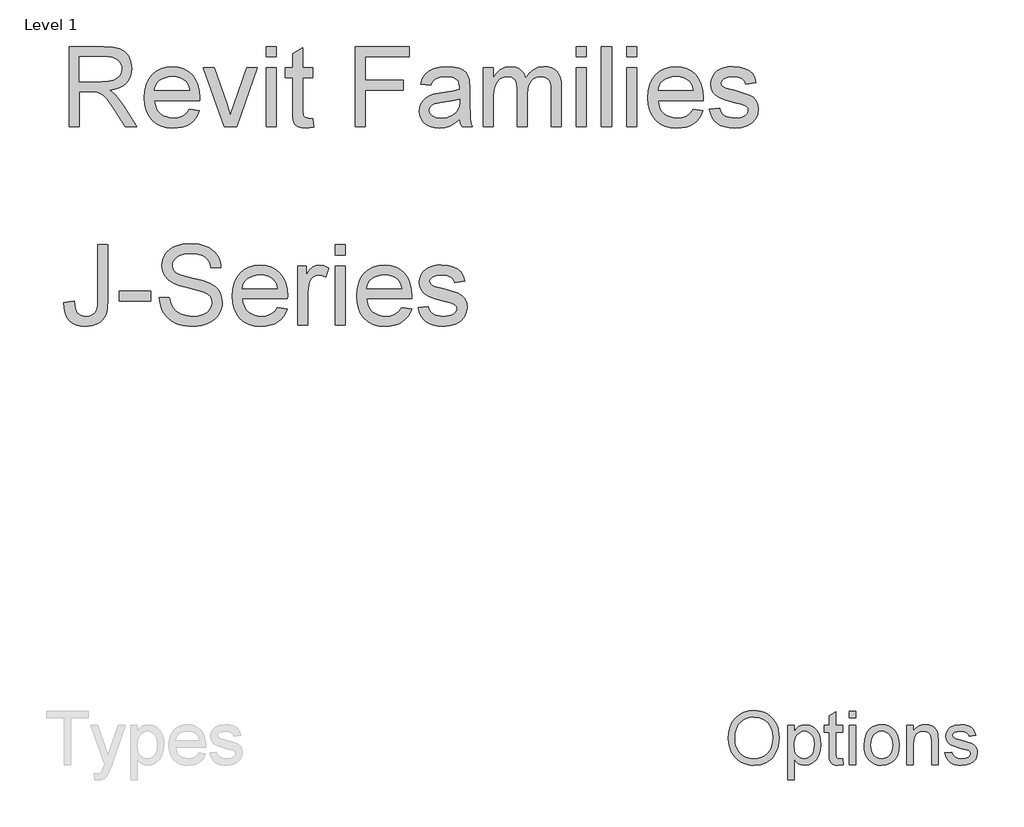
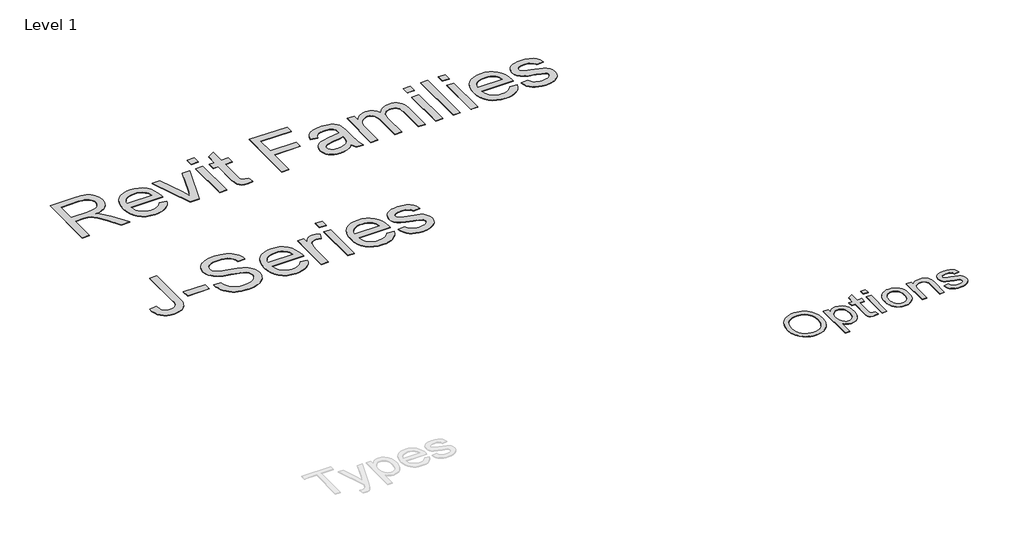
# One storey, part 7 of 7: 2 proxies.
"""IFC4 building model written with IfcOpenShell, lengths in millimetres."""

import ifcopenshell
import ifcopenshell.guid

model = None  # the IFC model being written
_history = None  # IfcOwnerHistory: only IFC2X3 demands one
_inside = {}  # id of a spatial element -> (the spatial element, [elements in it])
_under = {}  # id of a project, library or spatial element -> (it, [spatial elements below it])
_declared = {}  # id of a project -> (the project, [libraries it declares])
_typed = {}  # id of a type object -> (the type object, [elements of that type])
_made_of = {}  # id of a material, layer set ... -> (it, [elements and type objects made of it])


def new_model(schema):
    """Start an empty IFC model of exactly this schema.

    Asked for "IFC4X3", IfcOpenShell would pick the latest addendum, in which some entities
    have other attributes; the version numbers below select the first issue.
    IFC2X3 requires an IfcOwnerHistory on every rooted entity: one is made here for all.
    """
    global model, _history
    if schema == "IFC4X3":
        model = ifcopenshell.file(schema_version=(4, 3, 0, 0))
    else:
        model = ifcopenshell.file(schema=schema)
    _inside.clear()
    _under.clear()
    _declared.clear()
    _typed.clear()
    _made_of.clear()
    _history = None
    if model.schema == "IFC2X3":
        org = make("IfcOrganization", Name="unknown")
        user = make(
            "IfcPersonAndOrganization",
            ThePerson=make("IfcPerson", FamilyName="unknown"),
            TheOrganization=org,
        )
        app = make(
            "IfcApplication",
            ApplicationDeveloper=org,
            Version="unknown",
            ApplicationFullName="unknown",
            ApplicationIdentifier="unknown",
        )
        _history = make(
            "IfcOwnerHistory",
            OwningUser=user,
            OwningApplication=app,
            ChangeAction="ADDED",
            CreationDate=0,
        )
    return model


def make(cls, **values):
    """One entity of the class cls with the attributes given. An attribute that is None is left unset."""
    return model.create_entity(
        cls, **{name: value for name, value in values.items() if value is not None}
    )


def rooted(cls, **values):
    """An entity with a GlobalId (a new one), such as an element, a storey or a relation."""
    return make(cls, GlobalId=ifcopenshell.guid.new(), OwnerHistory=_history, **values)


def si_unit(unit_type, name, prefix=None):
    """IfcSIUnit, for example si_unit("LENGTHUNIT", "METRE", prefix="MILLI")."""
    return make("IfcSIUnit", UnitType=unit_type, Prefix=prefix, Name=name)


def assignment(units):
    """IfcUnitAssignment: the units of a project."""
    return None if units is None else make("IfcUnitAssignment", Units=units)


def point(xyz):
    """IfcCartesianPoint."""
    return None if xyz is None else make("IfcCartesianPoint", Coordinates=xyz)


def direction(xyz):
    """IfcDirection."""
    return None if xyz is None else make("IfcDirection", DirectionRatios=xyz)


def frame(location, z_axis=None, x_axis=None):
    """IfcAxis2Placement3D, a coordinate frame: its origin and axes. An axis left out is left unset."""
    return make(
        "IfcAxis2Placement3D",
        Location=point(location),
        Axis=direction(z_axis),
        RefDirection=direction(x_axis),
    )


def origin():
    """The frame at (0, 0, 0) with its axes left unset."""
    return frame((0.0, 0.0, 0.0))


def origin_with_axes():
    """The frame at (0, 0, 0) with the z axis (0, 0, 1) and the x axis (1, 0, 0) written out."""
    return frame((0.0, 0.0, 0.0), z_axis=(0.0, 0.0, 1.0), x_axis=(1.0, 0.0, 0.0))


def place(relative_to, where):
    """IfcLocalPlacement: puts the frame where relative to a parent placement (None: the world)."""
    return make(
        "IfcLocalPlacement", PlacementRelTo=relative_to, RelativePlacement=where
    )


def context(
    kind, dimensions, precision=None, world=None, true_north=None, identifier=None
):
    """IfcGeometricRepresentationContext, for example the 3D "Model" context."""
    return make(
        "IfcGeometricRepresentationContext",
        ContextIdentifier=identifier,
        ContextType=kind,
        CoordinateSpaceDimension=dimensions,
        Precision=precision,
        WorldCoordinateSystem=world,
        TrueNorth=true_north,
    )


def project(units=None, contexts=None):
    """IfcProject with its units and contexts."""
    return rooted(
        "IfcProject",
        Name="project",
        RepresentationContexts=contexts,
        UnitsInContext=assignment(units),
    )


def spatial(cls, under=None, at=None, **own):
    """A site, building, storey or space (cls), placed at a placement, below another one or the project."""
    s = rooted(cls, ObjectPlacement=at, **own)
    if under is not None:
        _under.setdefault(under.id(), (under, []))[1].append(s)
    return s


def polyline(points):
    """IfcPolyline through the points."""
    return make("IfcPolyline", Points=[point(p) for p in points])


def outline(outer, holes=None, kind="AREA"):
    """IfcArbitraryClosedProfileDef: a profile drawn as a closed curve; with holes, ...WithVoids."""
    if holes is None:
        return make("IfcArbitraryClosedProfileDef", ProfileType=kind, OuterCurve=outer)
    return make(
        "IfcArbitraryProfileDefWithVoids",
        ProfileType=kind,
        OuterCurve=outer,
        InnerCurves=holes,
    )


def extrude(swept, where, along, depth):
    """IfcExtrudedAreaSolid: the profile swept, set in the frame where, extruded along a direction by depth."""
    return make(
        "IfcExtrudedAreaSolid",
        SweptArea=swept,
        Position=where,
        ExtrudedDirection=direction(along),
        Depth=depth,
    )


def shape(context_of_items, identifier, shape_type, items):
    """IfcShapeRepresentation: the items that make up one representation, for example the "Body"."""
    return make(
        "IfcShapeRepresentation",
        ContextOfItems=context_of_items,
        RepresentationIdentifier=identifier,
        RepresentationType=shape_type,
        Items=items,
    )


def made_of(thing, what):
    """Note that an element or type object is made of a material, layer set ...; save() writes the relation."""
    if what is not None:
        _made_of.setdefault(what.id(), (what, []))[1].append(thing)
    return thing


def element(
    cls,
    number,
    at=None,
    inside=None,
    cuts=None,
    type_object=None,
    material=None,
    context=None,
    identifier="Body",
    shape_type=None,
    held_by="IfcProductDefinitionShape",
    body=None,
    shapes=None,
    **own,
):
    """One element of the class cls, such as IfcWall. Its Tag is "e" and its number.

    at: its placement. inside: the storey or other place that contains it. cuts: it is an
    opening in that element (IfcRelVoidsElement). A single representation is given by context,
    identifier, shape_type and body (its items); several are given by shapes. held_by: the class
    of the entity that holds the representations. save() writes the other relations.
    """
    e = rooted(cls, Tag="e%d" % number, ObjectPlacement=at, **own)
    if body is not None:
        shapes = [shape(context, identifier, shape_type, body)]
    if shapes is not None:
        e.Representation = make(held_by, Representations=shapes)
    if inside is not None:
        _inside.setdefault(inside.id(), (inside, []))[1].append(e)
    if cuts is not None:
        rooted(
            "IfcRelVoidsElement", RelatingBuildingElement=cuts, RelatedOpeningElement=e
        )
    if type_object is not None:
        _typed.setdefault(type_object.id(), (type_object, []))[1].append(e)
    return made_of(e, material)


def aggregate(whole, parts):
    """IfcRelAggregates: a whole, such as a stair, and the parts it consists of."""
    return rooted("IfcRelAggregates", RelatingObject=whole, RelatedObjects=parts)


def save(model, path):
    """Write the relations noted so far, then the file.

    IfcRelAggregates (storeys below a building ...), IfcRelContainedInSpatialStructure (elements
    in a storey), IfcRelDefinesByType, IfcRelAssociatesMaterial and IfcRelDeclares: one each for
    every whole, place, type object, material and project.
    """
    for whole, parts in _under.values():
        aggregate(whole, parts)
    for where, things in _inside.values():
        rooted(
            "IfcRelContainedInSpatialStructure",
            RelatedElements=things,
            RelatingStructure=where,
        )
    for kind, things in _typed.values():
        rooted("IfcRelDefinesByType", RelatedObjects=things, RelatingType=kind)
    for what, things in _made_of.values():
        rooted("IfcRelAssociatesMaterial", RelatedObjects=things, RelatingMaterial=what)
    for by, libraries in _declared.values():
        rooted("IfcRelDeclares", RelatingContext=by, RelatedDefinitions=libraries)
    model.write(path)


model = new_model("IFC4")

# Units and contexts
model_context = context("Model", 3, world=origin())
ifc_project = project(units=[si_unit("LENGTHUNIT", "METRE", prefix="MILLI")], contexts=[model_context])

# Site, building, storey
site = spatial("IfcSite", under=ifc_project)
building = spatial("IfcBuilding", under=site)
storey = spatial("IfcBuildingStorey", under=building, Name="Level 1", Elevation=0.0)

# Proxies
placement = place(None, origin())
element("IfcBuildingElementProxy", 1, Name="400mm Arial", ObjectType="400mm Arial", at=placement, inside=storey, context=model_context, shape_type="SweptSolid", body=[
    extrude(outline(polyline([(-6462.261333, 17542.0194987), (-6458.9974836, 17587.9704339), (-6449.2059353, 17628.6489968), (-6432.8866881, 17664.0551876), (-6410.0397421, 17694.1890063), (-6382.0340011, 17718.2494348), (-6350.238369, 17735.4354552), (-6314.6528458, 17745.7470674), (-6275.2774315, 17749.1842715), (-6248.9215484, 17747.57028), (-6223.892725, 17742.7283055), (-6200.1909613, 17734.6583482), (-6177.8162572, 17723.3604078), (-6157.3962762, 17709.1752161), (-6139.5586815, 17692.4435044), (-6124.3034732, 17673.1652729), (-6111.6306512, 17651.3405215), (-6101.671726, 17627.4654031), (-6094.558208, 17602.0360707), (-6088.8673936, 17546.5147639), (-6094.8570953, 17490.2522165), (-6102.3442224, 17464.4701971), (-6112.8262004, 17440.2543472), (-6126.0549528, 17418.2442857), (-6141.7824031, 17399.0796313), (-6160.0085513, 17382.7603841), (-6180.7333974, 17369.2865442), (-6226.4153339, 17351.2098396), (-6275.5643633, 17345.1842715), (-6302.3805328, 17346.8490738), (-6327.7381322, 17351.8434807), (-6351.6371616, 17360.1674923), (-6374.0776209, 17371.8211086), (-6394.473691, 17386.3530096), (-6412.2395527, 17403.3118756), (-6427.3752061, 17422.6977066), (-6439.8806512, 17444.5105025), (-6456.6661625, 17491.91403), (-6462.261333, 17542.0194987)]), holes=[polyline([(-6413.291636, 17541.541279), (-6410.843749, 17509.0761393), (-6403.5000877, 17480.2574249), (-6391.2606524, 17455.0851356), (-6374.1254429, 17433.5592715), (-6353.2959862, 17416.3194514), (-6329.9738093, 17404.0052942), (-6304.1589123, 17396.6167999), (-6275.8512951, 17394.1539684), (-6247.0594805, 17396.6407108), (-6220.9397184, 17404.1009381), (-6197.4920089, 17416.5346502), (-6176.7163519, 17433.9418472), (-6159.7066751, 17455.92202), (-6147.5569059, 17482.0746597), (-6140.2670444, 17512.3997662), (-6137.8370906, 17546.8973396), (-6141.9976019, 17590.2479552), (-6154.479136, 17627.7164684), (-6174.9588946, 17658.3583955), (-6203.1140792, 17681.2292525), (-6237.0796332, 17695.468244), (-6274.9904997, 17700.2145745), (-6302.3147776, 17697.9280866), (-6327.6663993, 17691.0686228), (-6351.0453647, 17679.6361831), (-6372.4516739, 17663.6307677), (-6390.3191573, 17642.2812471), (-6403.0816455, 17614.8164921), (-6410.7391384, 17581.2365027), (-6413.291636, 17541.541279)])]), origin_with_axes(), (0.0, 0.0, 1.0), 5.0),
    extrude(outline(polyline([(-6027.6552724, 17241.1236654), (-6027.6552724, 17639.0024533), (-5978.6855754, 17639.0024533), (-5978.6855754, 17590.9891957), (-5962.7130375, 17614.6730262), (-5944.8276209, 17631.590048), (-5923.9772421, 17641.740261), (-5899.1098179, 17645.1236654), (-5865.9931038, 17640.3892904), (-5837.0369012, 17626.1861654), (-5813.4606701, 17603.3750858), (-5796.4838709, 17572.8168472), (-5786.2260584, 17536.7351711), (-5782.8067875, 17497.353779), (-5786.6684116, 17455.4736891), (-5798.2532838, 17418.0171313), (-5817.1907838, 17386.885029), (-5843.1102913, 17363.9783055), (-5873.2979097, 17349.88278), (-5905.0397421, 17345.1842715), (-5927.5519343, 17348.328566), (-5947.6491171, 17357.7614495), (-5964.8530707, 17372.000441), (-5978.6855754, 17389.5630593), (-5978.6855754, 17241.1236654), (-6027.6552724, 17241.1236654)]), holes=[polyline([(-5978.6855754, 17492.8585139), (-5973.3892923, 17448.9579457), (-5966.7689384, 17431.9572355), (-5957.5004429, 17418.2562411), (-5934.0557222, 17400.1795366), (-5920.6386708, 17395.6603605), (-5906.0918254, 17394.1539684), (-5891.3357589, 17395.7141602), (-5877.6736199, 17400.3947355), (-5853.6311247, 17419.1170366), (-5844.0697196, 17433.3141839), (-5837.2401446, 17450.9425574), (-5831.7764845, 17496.4929836), (-5837.1086341, 17540.1544419), (-5843.7738212, 17557.2866625), (-5853.105083, 17571.2865442), (-5876.5139372, 17589.9371124), (-5889.778556, 17594.5997544), (-5904.0833027, 17596.1539684), (-5918.3432163, 17594.5011216), (-5931.7602677, 17589.5425811), (-5956.0657838, 17569.7084192), (-5965.9619426, 17554.9882191), (-5973.0306275, 17537.2731682), (-5977.2718384, 17516.5632665), (-5978.6855754, 17492.8585139)])]), origin_with_axes(), (0.0, 0.0, 1.0), 5.0),
    extrude(outline(polyline([(-5623.6552724, 17392.1454457), (-5617.5340603, 17349.8708245), (-5654.1656891, 17345.1842715), (-5677.6701872, 17347.2167052), (-5695.1969391, 17353.3140063), (-5707.5828292, 17362.7110233), (-5715.6647421, 17374.6426048), (-5720.1121853, 17395.1343188), (-5721.5946663, 17430.2117336), (-5721.5946663, 17590.0327563), (-5758.3219391, 17590.0327563), (-5758.3219391, 17639.0024533), (-5721.5946663, 17639.0024533), (-5721.5946663, 17708.918173), (-5672.6249694, 17737.7069987), (-5672.6249694, 17639.0024533), (-5623.6552724, 17639.0024533), (-5623.6552724, 17590.0327563), (-5672.6249694, 17590.0327563), (-5672.6249694, 17431.6463927), (-5670.042583, 17406.3963927), (-5661.6737383, 17397.4536843), (-5644.9838709, 17394.1539684), (-5623.6552724, 17392.1454457)])), origin_with_axes(), (0.0, 0.0, 1.0), 5.0),
    extrude(outline(polyline([(-5574.6855754, 17351.3054836), (-5574.6855754, 17639.0024533), (-5525.7158785, 17639.0024533), (-5525.7158785, 17351.3054836), (-5574.6855754, 17351.3054836)])), origin_with_axes(), (0.0, 0.0, 1.0), 5.0),
    extrude(outline(polyline([(-5574.6855754, 17694.0933624), (-5574.6855754, 17743.0630593), (-5525.7158785, 17743.0630593), (-5525.7158785, 17694.0933624), (-5574.6855754, 17694.0933624)])), origin_with_axes(), (0.0, 0.0, 1.0), 5.0),
    extrude(outline(polyline([(-5464.5037572, 17495.1539684), (-5461.8556157, 17532.4132606), (-5453.911191, 17564.5197355), (-5440.6704831, 17591.4733931), (-5422.1334921, 17613.2742336), (-5403.4709684, 17627.20836), (-5382.871655, 17637.1613074), (-5360.3355518, 17643.1330759), (-5335.8626588, 17645.1236654), (-5308.8462348, 17642.6996893), (-5284.4181749, 17635.427761), (-5262.5784791, 17623.3078806), (-5243.3271474, 17606.340048), (-5227.6146415, 17585.0981268), (-5216.391423, 17560.1559807), (-5209.6574919, 17531.5136098), (-5207.4128482, 17499.1710139), (-5211.3820716, 17449.6991862), (-5223.2897421, 17412.0393851), (-5242.7891502, 17383.8363785), (-5269.5335868, 17362.7349343), (-5301.2993302, 17349.5719372), (-5335.8626588, 17345.1842715), (-5363.273614, 17347.5992809), (-5387.9288283, 17354.8443093), (-5409.8283015, 17366.9193567), (-5428.9720338, 17383.824423), (-5444.5171628, 17405.2725764), (-5455.6208264, 17430.9768851), (-5462.2830245, 17460.9373491), (-5464.5037572, 17495.1539684)]), holes=[polyline([(-5415.5340603, 17495.2496124), (-5414.1173344, 17471.4970378), (-5409.8671569, 17450.9306019), (-5402.7835276, 17433.5503048), (-5392.8664466, 17419.3561465), (-5380.8033548, 17408.3301936), (-5367.2816929, 17400.4545129), (-5352.3014608, 17395.7291045), (-5335.8626588, 17394.1539684), (-5319.5075451, 17395.7380712), (-5304.5870906, 17400.4903794), (-5291.1012951, 17408.4108931), (-5279.0501588, 17419.4996124), (-5269.1330778, 17433.8342478), (-5262.0494485, 17451.4925101), (-5257.799271, 17472.4743993), (-5256.3825451, 17496.7799154), (-5257.8082376, 17519.7792939), (-5262.085315, 17539.8077326), (-5269.2137774, 17556.8652314), (-5279.1936247, 17570.9517904), (-5291.2895941, 17581.9777433), (-5304.766423, 17589.8534239), (-5319.6241112, 17594.5788323), (-5335.8626588, 17596.1539684), (-5352.3014608, 17594.58481), (-5367.2816929, 17589.8773349), (-5380.8033548, 17582.031543), (-5392.8664466, 17571.0474343), (-5402.7835276, 17556.8951202), (-5409.8671569, 17539.5447118), (-5414.1173344, 17518.9962092), (-5415.5340603, 17495.2496124)])]), origin_with_axes(), (0.0, 0.0, 1.0), 5.0),
    extrude(outline(polyline([(-5152.3219391, 17351.3054836), (-5152.3219391, 17639.0024533), (-5103.3522421, 17639.0024533), (-5103.3522421, 17598.8319987), (-5086.3395764, 17619.0846029), (-5065.9076398, 17633.5507487), (-5042.0564324, 17642.2304362), (-5014.7859542, 17645.1236654), (-4990.647815, 17642.7923444), (-4968.5421095, 17635.7983813), (-4950.1067402, 17625.0145271), (-4936.9796095, 17611.3135328), (-4928.0727677, 17594.7312648), (-4922.2982648, 17575.3035896), (-4919.7158785, 17527.9598396), (-4919.7158785, 17351.3054836), (-4968.6855754, 17351.3054836), (-4968.6855754, 17521.3604078), (-4970.0963235, 17546.6821408), (-4974.3285679, 17564.6871124), (-4982.1355044, 17577.5870887), (-4994.2703292, 17587.5938358), (-5009.8244249, 17594.0139353), (-5027.8891739, 17596.1539684), (-5056.5704002, 17591.3478605), (-5081.0193822, 17576.9295366), (-5090.7900084, 17565.1593543), (-5097.7690271, 17549.0732393), (-5101.9564384, 17528.6711914), (-5103.3522421, 17503.9532108), (-5103.3522421, 17351.3054836), (-5152.3219391, 17351.3054836)])), origin_with_axes(), (0.0, 0.0, 1.0), 5.0),
    extrude(outline(polyline([(-4870.7461815, 17437.0024533), (-4821.7764845, 17443.1236654), (-4814.0532364, 17422.1776427), (-4799.1088709, 17406.7789684), (-4776.847744, 17397.3102184), (-4747.1742118, 17394.1539684), (-4717.8593444, 17397.0471976), (-4697.2480754, 17405.7268851), (-4685.0534732, 17418.3040631), (-4680.9886057, 17432.8897639), (-4685.0773841, 17445.371298), (-4697.3437194, 17454.8878699), (-4747.7480754, 17468.8518851), (-4821.4895527, 17492.8106919), (-4840.1520764, 17504.8498728), (-4853.6737383, 17520.7865442), (-4861.8871616, 17539.6044893), (-4864.6249694, 17560.2874911), (-4862.4251588, 17579.2608576), (-4855.8257269, 17596.775654), (-4845.4244485, 17612.1384618), (-4831.8190982, 17624.6558624), (-4800.6869959, 17639.1459192), (-4758.5558406, 17645.1236654), (-4726.6824978, 17642.7206114), (-4698.9696663, 17635.5114495), (-4676.6846285, 17624.2015536), (-4661.0946663, 17609.496298), (-4650.7651209, 17590.3077326), (-4644.261333, 17565.5479078), (-4693.23103, 17559.4266957), (-4699.4120196, 17574.8373254), (-4711.6424883, 17586.4461086), (-4730.0419911, 17593.7270035), (-4754.730083, 17596.1539684), (-4782.8494012, 17593.8346029), (-4801.5956133, 17586.8765063), (-4812.1403576, 17576.8338927), (-4815.6552724, 17565.260976), (-4809.8209921, 17551.010029), (-4791.5529997, 17540.2022639), (-4749.3740224, 17529.7770745), (-4677.4976019, 17506.7268851), (-4658.51228, 17495.7039211), (-4644.1178671, 17480.6160896), (-4635.0436483, 17461.4155688), (-4632.0189088, 17438.0545366), (-4635.56969, 17413.9044419), (-4646.2220338, 17391.1890063), (-4663.5694533, 17371.6895982), (-4687.2054618, 17357.1875858), (-4715.7551777, 17348.1851), (-4747.8437194, 17345.1842715), (-4774.1996024, 17346.630886), (-4797.2199031, 17350.9707298), (-4816.9046214, 17358.2038027), (-4833.2537572, 17368.3301048), (-4846.6080423, 17381.3018141), (-4857.308208, 17397.0711086), (-4865.3542544, 17415.6379883), (-4870.7461815, 17437.0024533)])), origin_with_axes(), (0.0, 0.0, 1.0), 5.0),
])
element("IfcBuildingElementProxy", 2, Name="600mm Arial", ObjectType="600mm Arial", at=placement, inside=storey, context=model_context, shape_type="SweptSolid", body=[
    extrude(outline(polyline([(-11309.2935955, 22041.6162982), (-11309.2935955, 22632.385529), (-11054.7262878, 22632.385529), (-10986.3068167, 22628.401154), (-10936.5291724, 22616.448029), (-10917.3194369, 22606.9468271), (-10900.1469609, 22594.3807213), (-10885.0117446, 22578.7497117), (-10871.9137878, 22560.0537982), (-10861.3443768, 22539.2980891), (-10853.7947974, 22517.4876924), (-10847.755134, 22470.7028367), (-10850.2566364, 22440.3602886), (-10857.7611436, 22412.5057213), (-10870.2686556, 22387.1391347), (-10887.7791724, 22364.260529), (-10910.5180547, 22344.6000722), (-10938.7106628, 22328.8879328), (-10972.356997, 22317.1241107), (-11011.4570571, 22309.3086059), (-10987.1181148, 22293.4071636), (-10969.4859032, 22277.7220674), (-10909.630134, 22201.7124521), (-10811.1205186, 22041.6162982), (-10896.9378263, 22041.6162982), (-10973.8128263, 22164.0682213), (-11029.3416724, 22245.1259136), (-11049.9847013, 22268.7617309), (-11068.3560955, 22283.4191828), (-11103.4762878, 22297.4816828), (-11146.3128263, 22300.0778367), (-11235.4474417, 22300.0778367), (-11235.4474417, 22041.6162982), (-11309.2935955, 22041.6162982)]), holes=[polyline([(-11235.4474417, 22373.9239905), (-11070.1589801, 22373.9239905), (-11022.6890282, 22376.5381732), (-10985.8560955, 22384.3807213), (-10958.1277301, 22397.9744713), (-10937.9714801, 22417.8422597), (-10925.6938359, 22441.8747117), (-10921.6012878, 22467.9624521), (-10923.5529104, 22486.8476684), (-10929.4077782, 22503.9840867), (-10939.1658912, 22519.3717069), (-10952.8272494, 22533.010529), (-10970.7073575, 22544.1793992), (-10993.1217205, 22552.1571636), (-11020.0703383, 22556.9438222), (-11051.5532109, 22558.5393751), (-11235.4474417, 22558.5393751), (-11235.4474417, 22373.9239905)])]), origin_with_axes(), (0.0, 0.0, 1.0), 5.0),
    extrude(outline(polyline([(-10424.005134, 22170.8470674), (-10351.6012878, 22161.6162982), (-10362.7025498, 22132.6168992), (-10377.6890282, 22107.0610097), (-10396.5607229, 22084.9486299), (-10419.317634, 22066.2797597), (-10445.7253864, 22051.4510338), (-10475.5496051, 22040.8590867), (-10508.7902902, 22034.5039184), (-10545.4474417, 22032.385529), (-10591.2677542, 22036.0408775), (-10632.0940763, 22047.0069232), (-10667.926408, 22065.283666), (-10698.7647494, 22090.8711059), (-10723.5634273, 22123.0571035), (-10741.2767686, 22161.1295194), (-10751.9047734, 22205.0883535), (-10755.4474417, 22254.9336059), (-10751.8687157, 22306.4690626), (-10741.1325378, 22351.8927405), (-10723.238908, 22391.2046396), (-10698.1878263, 22424.4047597), (-10667.4306148, 22450.7809617), (-10632.4185955, 22469.6211059), (-10593.1517686, 22480.9251924), (-10549.630134, 22484.6932213), (-10507.5102422, 22480.9342069), (-10469.4197974, 22469.6571636), (-10435.3587998, 22450.8620915), (-10405.3272494, 22424.5489905), (-10380.8125258, 22391.4209857), (-10363.302009, 22352.1812021), (-10352.7956989, 22306.8296396), (-10349.2935955, 22255.3662982), (-10349.7262878, 22235.4624521), (-10681.6012878, 22235.4624521), (-10677.3239441, 22205.994303), (-10668.8188359, 22180.1860097), (-10656.0859633, 22158.0375722), (-10639.1253263, 22139.5489905), (-10618.8744248, 22124.9726684), (-10596.270759, 22114.5610097), (-10571.3143287, 22108.3140146), (-10544.005134, 22106.2316828), (-10504.7022494, 22110.0898559), (-10471.6012878, 22121.6643751), (-10444.7022494, 22141.6763944), (-10424.005134, 22170.8470674)]), holes=[polyline([(-10681.6012878, 22309.3086059), (-10423.1397494, 22309.3086059), (-10433.1277301, 22348.323029), (-10441.7184753, 22363.6655771), (-10452.7070571, 22376.2316828), (-10472.8452782, 22391.3759136), (-10495.7599417, 22402.1932213), (-10521.4510474, 22408.6836059), (-10549.9185955, 22410.8470674), (-10575.8846412, 22409.1208054), (-10599.6962398, 22403.9420194), (-10621.3533912, 22395.3107093), (-10640.8560955, 22383.2268751), (-10657.2217806, 22368.2494112), (-10669.4678744, 22350.9372117), (-10677.5943768, 22331.2902766), (-10681.6012878, 22309.3086059)])]), origin_with_axes(), (0.0, 0.0, 1.0), 5.0),
    extrude(outline(polyline([(-10169.005134, 22041.6162982), (-10321.6012878, 22475.4624521), (-10243.4282109, 22475.4624521), (-10150.9762878, 22215.5586059), (-10123.1397494, 22128.1547597), (-10095.880134, 22210.6547597), (-10002.8512878, 22475.4624521), (-9924.6782109, 22475.4624521), (-10075.3993648, 22041.6162982), (-10169.005134, 22041.6162982)])), origin_with_axes(), (0.0, 0.0, 1.0), 5.0),
    extrude(outline(polyline([(-9860.0628263, 22041.6162982), (-9860.0628263, 22475.4624521), (-9786.2166724, 22475.4624521), (-9786.2166724, 22041.6162982), (-9860.0628263, 22041.6162982)])), origin_with_axes(), (0.0, 0.0, 1.0), 5.0),
    extrude(outline(polyline([(-9860.0628263, 22558.5393751), (-9860.0628263, 22632.385529), (-9786.2166724, 22632.385529), (-9786.2166724, 22558.5393751), (-9860.0628263, 22558.5393751)])), origin_with_axes(), (0.0, 0.0, 1.0), 5.0),
    extrude(outline(polyline([(-9518.5243648, 22103.2028367), (-9509.2935955, 22039.4528367), (-9564.5339801, 22032.385529), (-9599.9786917, 22035.4504328), (-9626.4089801, 22044.6451444), (-9645.0868648, 22058.8158174), (-9657.2743648, 22076.8086059), (-9663.9810955, 22107.7100482), (-9666.2166724, 22160.6066828), (-9666.2166724, 22401.6162982), (-9721.6012878, 22401.6162982), (-9721.6012878, 22475.4624521), (-9666.2166724, 22475.4624521), (-9666.2166724, 22580.8951444), (-9592.3705186, 22624.3086059), (-9592.3705186, 22475.4624521), (-9518.5243648, 22475.4624521), (-9518.5243648, 22401.6162982), (-9592.3705186, 22401.6162982), (-9592.3705186, 22162.7701444), (-9588.4762878, 22124.6932213), (-9575.8560955, 22111.2076444), (-9565.2010474, 22107.4756732), (-9550.6878263, 22106.2316828), (-9518.5243648, 22103.2028367)])), origin_with_axes(), (0.0, 0.0, 1.0), 5.0),
    extrude(outline(polyline([(-9204.6782109, 22041.6162982), (-9204.6782109, 22632.385529), (-8807.755134, 22632.385529), (-8807.755134, 22558.5393751), (-9130.8320571, 22558.5393751), (-9130.8320571, 22383.1547597), (-8853.9089801, 22383.1547597), (-8853.9089801, 22309.3086059), (-9130.8320571, 22309.3086059), (-9130.8320571, 22041.6162982), (-9204.6782109, 22041.6162982)])), origin_with_axes(), (0.0, 0.0, 1.0), 5.0),
    extrude(outline(polyline([(-8438.5243648, 22097.0009136), (-8473.8068167, 22066.7485097), (-8510.1349417, 22046.9528367), (-8548.3380667, 22036.0273559), (-8589.2455186, 22032.385529), (-8622.1256268, 22034.5760338), (-8650.958259, 22041.1475482), (-8675.7434152, 22052.1000722), (-8696.4810955, 22067.4336059), (-8712.855795, 22086.1745915), (-8724.552009, 22107.3494713), (-8731.5697373, 22130.9582453), (-8733.9089801, 22157.0009136), (-8730.3753263, 22187.6138944), (-8719.7743648, 22215.4143751), (-8703.4222013, 22239.2124521), (-8682.6349417, 22257.8182213), (-8658.2058551, 22271.8807213), (-8630.9282109, 22282.0489905), (-8567.0339801, 22293.1547597), (-8491.5291724, 22304.8374521), (-8438.9570571, 22318.5393751), (-8438.5243648, 22334.9816828), (-8443.6084994, 22367.9384136), (-8449.9636676, 22380.1439424), (-8458.8609032, 22389.5009136), (-8474.239509, 22398.8398559), (-8492.9714801, 22405.510529), (-8540.4955186, 22410.8470674), (-8584.4859032, 22407.2953847), (-8615.2070571, 22396.6403367), (-8636.1565763, 22376.9348078), (-8650.8320571, 22346.2316828), (-8724.6782109, 22355.4624521), (-8711.8597013, 22395.8470674), (-8692.7310955, 22427.5778367), (-8665.5075378, 22451.8446636), (-8628.4041724, 22469.8374521), (-8583.0255667, 22480.979279), (-8530.9762878, 22484.6932213), (-8481.0544128, 22481.4119713), (-8441.4810955, 22471.5682213), (-8411.6433551, 22456.7665386), (-8390.9282109, 22438.6114905), (-8377.1902301, 22416.1655771), (-8368.2839801, 22388.4912982), (-8364.6782109, 22323.8759136), (-8364.6782109, 22232.0009136), (-8360.9282109, 22103.7076444), (-8355.3753263, 22071.994904), (-8346.2166724, 22041.6162982), (-8420.0628263, 22041.6162982), (-8431.8897494, 22067.2893751), (-8438.5243648, 22097.0009136)]), holes=[polyline([(-8438.5243648, 22244.6932213), (-8488.1397494, 22232.3975482), (-8557.6589801, 22222.0489905), (-8621.192634, 22210.0778367), (-8637.7250859, 22201.8927405), (-8649.9666724, 22190.6066828), (-8657.5387878, 22177.0850482), (-8660.0628263, 22162.1932213), (-8654.5640282, 22140.2340867), (-8638.067634, 22122.2412982), (-8610.9342205, 22110.2340867), (-8573.5243648, 22106.2316828), (-8533.8609032, 22110.6487501), (-8498.8128263, 22123.8999521), (-8470.3993648, 22143.4251924), (-8450.6397494, 22166.6643751), (-8441.8777301, 22190.6066828), (-8438.9570571, 22223.7797597), (-8438.5243648, 22244.6932213)])]), origin_with_axes(), (0.0, 0.0, 1.0), 5.0),
    extrude(outline(polyline([(-8263.1397494, 22041.6162982), (-8263.1397494, 22475.4624521), (-8189.2935955, 22475.4624521), (-8189.2935955, 22404.0682213), (-8167.0820571, 22436.8626924), (-8138.5243648, 22462.5537982), (-8104.5940763, 22479.1583655), (-8066.2647494, 22484.6932213), (-8025.1950378, 22479.0501924), (-8007.7160715, 22471.9964064), (-7992.2743648, 22462.1211059), (-7967.6830186, 22435.0237501), (-7951.6012878, 22398.8759136), (-7924.6842205, 22436.4209857), (-7893.9810955, 22463.2388944), (-7859.4919128, 22479.3296396), (-7821.2166724, 22484.6932213), (-7791.653872, 22482.4621516), (-7765.7058551, 22475.7689424), (-7743.372622, 22464.6135939), (-7724.6541724, 22448.9961059), (-7709.856997, 22428.73619), (-7699.2875859, 22403.6535578), (-7692.9459393, 22373.7482093), (-7690.8320571, 22339.0201444), (-7690.8320571, 22041.6162982), (-7764.6782109, 22041.6162982), (-7764.6782109, 22307.2893751), (-7766.3909513, 22344.1223078), (-7771.5291724, 22368.948029), (-7781.1565763, 22385.9492309), (-7796.3368648, 22399.3086059), (-7815.8621051, 22407.9624521), (-7838.5243648, 22410.8470674), (-7859.4513479, 22408.9991107), (-7878.5303744, 22403.4552405), (-7895.7614441, 22394.2154569), (-7911.1445571, 22381.2797597), (-7923.7962998, 22364.2695434), (-7932.833259, 22342.8062021), (-7938.2554345, 22316.8897357), (-7940.0628263, 22286.5201444), (-7940.0628263, 22041.6162982), (-8013.9089801, 22041.6162982), (-8013.9089801, 22315.510529), (-8018.1818167, 22357.2653367), (-8031.0003263, 22387.0489905), (-8040.9116845, 22397.4606492), (-8053.5544128, 22404.8975482), (-8068.9285114, 22409.3596876), (-8087.0339801, 22410.8470674), (-8115.4834994, 22406.8807213), (-8141.6974417, 22394.9816828), (-8163.3320571, 22375.4384136), (-8178.0435955, 22348.5393751), (-8186.4810955, 22311.2196636), (-8189.2935955, 22260.4143751), (-8189.2935955, 22041.6162982), (-8263.1397494, 22041.6162982)])), origin_with_axes(), (0.0, 0.0, 1.0), 5.0),
    extrude(outline(polyline([(-7580.0628263, 22041.6162982), (-7580.0628263, 22475.4624521), (-7506.2166724, 22475.4624521), (-7506.2166724, 22041.6162982), (-7580.0628263, 22041.6162982)])), origin_with_axes(), (0.0, 0.0, 1.0), 5.0),
    extrude(outline(polyline([(-7580.0628263, 22558.5393751), (-7580.0628263, 22632.385529), (-7506.2166724, 22632.385529), (-7506.2166724, 22558.5393751), (-7580.0628263, 22558.5393751)])), origin_with_axes(), (0.0, 0.0, 1.0), 5.0),
    extrude(outline(polyline([(-7395.4474417, 22041.6162982), (-7395.4474417, 22632.385529), (-7321.6012878, 22632.385529), (-7321.6012878, 22041.6162982), (-7395.4474417, 22041.6162982)])), origin_with_axes(), (0.0, 0.0, 1.0), 5.0),
    extrude(outline(polyline([(-7210.8320571, 22041.6162982), (-7210.8320571, 22475.4624521), (-7136.9859032, 22475.4624521), (-7136.9859032, 22041.6162982), (-7210.8320571, 22041.6162982)])), origin_with_axes(), (0.0, 0.0, 1.0), 5.0),
    extrude(outline(polyline([(-7210.8320571, 22558.5393751), (-7210.8320571, 22632.385529), (-7136.9859032, 22632.385529), (-7136.9859032, 22558.5393751), (-7210.8320571, 22558.5393751)])), origin_with_axes(), (0.0, 0.0, 1.0), 5.0),
    extrude(outline(polyline([(-6722.4666724, 22170.8470674), (-6650.0628263, 22161.6162982), (-6661.1640883, 22132.6168992), (-6676.1505667, 22107.0610097), (-6695.0222614, 22084.9486299), (-6717.7791724, 22066.2797597), (-6744.1869248, 22051.4510338), (-6774.0111436, 22040.8590867), (-6807.2518287, 22034.5039184), (-6843.9089801, 22032.385529), (-6889.7292926, 22036.0408775), (-6930.5556148, 22047.0069232), (-6966.3879465, 22065.283666), (-6997.2262878, 22090.8711059), (-7022.0249657, 22123.0571035), (-7039.7383071, 22161.1295194), (-7050.3663119, 22205.0883535), (-7053.9089801, 22254.9336059), (-7050.3302542, 22306.4690626), (-7039.5940763, 22351.8927405), (-7021.7004465, 22391.2046396), (-6996.6493648, 22424.4047597), (-6965.8921532, 22450.7809617), (-6930.880134, 22469.6211059), (-6891.6133071, 22480.9251924), (-6848.0916724, 22484.6932213), (-6805.9717806, 22480.9342069), (-6767.8813359, 22469.6571636), (-6733.8203383, 22450.8620915), (-6703.7887878, 22424.5489905), (-6679.2740643, 22391.4209857), (-6661.7635474, 22352.1812021), (-6651.2572373, 22306.8296396), (-6647.755134, 22255.3662982), (-6648.1878263, 22235.4624521), (-6980.0628263, 22235.4624521), (-6975.7854825, 22205.994303), (-6967.2803744, 22180.1860097), (-6954.5475018, 22158.0375722), (-6937.5868648, 22139.5489905), (-6917.3359633, 22124.9726684), (-6894.7322974, 22114.5610097), (-6869.7758672, 22108.3140146), (-6842.4666724, 22106.2316828), (-6803.1637878, 22110.0898559), (-6770.0628263, 22121.6643751), (-6743.1637878, 22141.6763944), (-6722.4666724, 22170.8470674)]), holes=[polyline([(-6980.0628263, 22309.3086059), (-6721.6012878, 22309.3086059), (-6731.5892686, 22348.323029), (-6740.1800138, 22363.6655771), (-6751.1685955, 22376.2316828), (-6771.3068167, 22391.3759136), (-6794.2214801, 22402.1932213), (-6819.9125859, 22408.6836059), (-6848.380134, 22410.8470674), (-6874.3461797, 22409.1208054), (-6898.1577782, 22403.9420194), (-6919.8149297, 22395.3107093), (-6939.317634, 22383.2268751), (-6955.6833191, 22368.2494112), (-6967.9294128, 22350.9372117), (-6976.0559152, 22331.2902766), (-6980.0628263, 22309.3086059)])]), origin_with_axes(), (0.0, 0.0, 1.0), 5.0),
    extrude(outline(polyline([(-6601.6012878, 22170.8470674), (-6527.755134, 22180.0778367), (-6523.2929946, 22163.2388944), (-6516.1084994, 22148.4912982), (-6506.2016484, 22135.8350482), (-6493.5724417, 22125.2701444), (-6478.1848215, 22116.9408174), (-6460.0027301, 22110.9912982), (-6415.255134, 22106.2316828), (-6371.0484032, 22110.5946636), (-6353.8669128, 22116.0483896), (-6339.9666724, 22123.6836059), (-6321.5772494, 22142.6499521), (-6315.4474417, 22164.6451444), (-6316.988908, 22174.6150963), (-6321.6133071, 22183.4672597), (-6340.1109032, 22197.8182213), (-6367.7671532, 22207.1932213), (-6416.1205186, 22218.8759136), (-6483.5123455, 22238.3650963), (-6527.3224417, 22255.0057213), (-6555.4654705, 22273.1607694), (-6575.8560955, 22297.1932213), (-6588.2419128, 22325.5706251), (-6592.3705186, 22356.760529), (-6589.0532109, 22385.3723078), (-6579.1012878, 22411.7845674), (-6563.4161917, 22434.9516347), (-6542.8993648, 22453.8278367), (-6522.5087398, 22465.7088463), (-6495.9522494, 22475.6787982), (-6465.2491244, 22482.4396155), (-6432.4185955, 22484.6932213), (-6384.3536917, 22481.0694232), (-6342.5628263, 22470.198029), (-6308.9570571, 22453.1427405), (-6285.4474417, 22430.9672597), (-6269.8705186, 22402.0309617), (-6260.0628263, 22364.6932213), (-6333.9089801, 22355.4624521), (-6343.2298936, 22378.7016347), (-6361.6734032, 22396.2076444), (-6389.4197974, 22407.1872117), (-6426.6493648, 22410.8470674), (-6469.0532109, 22407.3494713), (-6497.3224417, 22396.8566828), (-6513.223884, 22381.7124521), (-6518.5243648, 22364.260529), (-6516.3248455, 22352.9023559), (-6509.7262878, 22342.7701444), (-6498.4402301, 22333.7196636), (-6482.1782109, 22326.4720674), (-6418.5724417, 22310.7509136), (-6310.1830186, 22275.9912982), (-6281.5532109, 22259.3687021), (-6259.8464801, 22236.6162982), (-6246.1625859, 22207.6619713), (-6241.6012878, 22172.4336059), (-6246.9558551, 22136.0153367), (-6263.0195571, 22101.760529), (-6289.1794128, 22072.3554809), (-6324.8224417, 22050.4864905), (-6367.8753263, 22036.9107694), (-6416.2647494, 22032.385529), (-6456.0093407, 22034.5670194), (-6490.723884, 22041.1114905), (-6520.4083792, 22052.0189424), (-6545.0628263, 22067.2893751), (-6565.2010474, 22086.8506732), (-6581.3368648, 22110.6307213), (-6593.4702782, 22138.6295194), (-6601.6012878, 22170.8470674)])), origin_with_axes(), (0.0, 0.0, 1.0), 5.0),
    extrude(outline(polyline([(-11346.2166724, 20749.0201444), (-11272.3705186, 20758.5393751), (-11264.6902301, 20704.8494713), (-11257.145158, 20685.5495915), (-11247.130134, 20671.2797597), (-11234.7984032, 20660.994303), (-11220.3032109, 20653.6475482), (-11203.6445571, 20649.2394953), (-11184.8224417, 20647.7701444), (-11157.5447974, 20651.1054809), (-11134.2695571, 20661.1114905), (-11116.3128263, 20676.8687021), (-11104.9907109, 20697.4576444), (-11098.9871051, 20727.2593271), (-11096.9859032, 20770.6547597), (-11096.9859032, 21173.9239905), (-11023.1397494, 21173.9239905), (-11023.1397494, 20771.9528367), (-11027.5928744, 20706.2016347), (-11033.1592806, 20679.6135939), (-11040.9522494, 20657.2172597), (-11051.1655907, 20638.1202045), (-11063.9931148, 20621.4300001), (-11079.4348215, 20607.1466468), (-11097.4907109, 20595.2701444), (-11139.552009, 20579.260529), (-11188.2839801, 20573.9239905), (-11224.6752061, 20576.6778968), (-11256.5411917, 20584.9396155), (-11283.8819369, 20598.7091468), (-11306.6974417, 20617.9864905), (-11324.5820571, 20642.6995314), (-11337.130134, 20672.776154), (-11344.3416724, 20708.2163583), (-11346.2166724, 20749.0201444)])), origin_with_axes(), (0.0, 0.0, 1.0), 5.0),
    extrude(outline(polyline([(-10940.0628263, 20758.5393751), (-10940.0628263, 20832.385529), (-10709.2935955, 20832.385529), (-10709.2935955, 20758.5393751), (-10940.0628263, 20758.5393751)])), origin_with_axes(), (0.0, 0.0, 1.0), 5.0),
    extrude(outline(polyline([(-10644.6782109, 20786.2316828), (-10570.8320571, 20786.2316828), (-10562.3584994, 20745.2521155), (-10547.0339801, 20712.3134136), (-10523.1277301, 20686.1715867), (-10488.9089801, 20665.5826444), (-10447.0820571, 20652.2232694), (-10400.3512878, 20647.7701444), (-10359.2094609, 20651.1415386), (-10323.1878263, 20661.2557213), (-10293.9991244, 20677.2653367), (-10273.3560955, 20698.323029), (-10261.0784513, 20722.4997117), (-10256.9859032, 20747.8662982), (-10260.0508071, 20772.5838463), (-10269.2455186, 20793.948029), (-10287.9234032, 20812.1751924), (-10319.4378263, 20827.4816828), (-10426.9618648, 20855.6787982), (-10497.5447974, 20874.338654), (-10542.7070571, 20892.0970674), (-10579.4678744, 20916.9408174), (-10605.5195571, 20947.0489905), (-10621.0423936, 20981.7725482), (-10626.2166724, 21020.4624521), (-10624.6166123, 21042.4531372), (-10619.8164321, 21063.713654), (-10611.8161316, 21084.2440025), (-10600.6157109, 21104.0441828), (-10586.341372, 21122.307404), (-10569.1193167, 21138.2268751), (-10548.949545, 21151.8025963), (-10525.8320571, 21163.0345674), (-10473.8729224, 21178.1247117), (-10416.3609032, 21183.1547597), (-10354.0532109, 21177.8903367), (-10299.5339801, 21162.0970674), (-10275.6818167, 21150.3332453), (-10254.7503263, 21136.0994713), (-10236.739509, 21119.3957453), (-10221.6493648, 21100.2220674), (-10209.5970811, 21079.1373319), (-10200.6998455, 21056.7004328), (-10194.957658, 21032.9113703), (-10192.3705186, 21007.7701444), (-10266.2166724, 21007.7701444), (-10271.1565763, 21031.3338463), (-10279.7743648, 21051.8326444), (-10292.0700378, 21069.2665386), (-10308.0435955, 21083.635529), (-10327.9925138, 21094.8675001), (-10352.2142686, 21102.8903367), (-10380.7088599, 21107.7040386), (-10413.4762878, 21109.3086059), (-10447.2893888, 21107.7220674), (-10476.1806148, 21102.9624521), (-10500.1499657, 21095.0297597), (-10519.1974417, 21083.9239905), (-10533.7106628, 21070.5736299), (-10544.0772494, 21055.9071636), (-10550.2972013, 21039.9245915), (-10552.3705186, 21022.6259136), (-10546.4931148, 20994.2485097), (-10528.8609032, 20971.4239905), (-10512.6709994, 20961.2737501), (-10487.1782109, 20951.0153367), (-10408.2839801, 20930.1739905), (-10326.8657109, 20910.3783174), (-10277.6109032, 20893.1066828), (-10235.5135474, 20866.3158174), (-10219.2380066, 20850.5676203), (-10206.1445571, 20833.2509136), (-10196.0799537, 20814.4558415), (-10188.8909513, 20794.2725482), (-10183.1397494, 20749.7412982), (-10184.793896, 20726.6418391), (-10189.7563359, 20704.2184617), (-10198.0270691, 20682.471166), (-10209.6060955, 20661.3999521), (-10224.2905907, 20641.8206251), (-10241.8777301, 20624.5489905), (-10262.3675138, 20609.5850482), (-10285.7599417, 20596.9287982), (-10311.3744248, 20586.8641948), (-10338.5303744, 20579.6751924), (-10397.4666724, 20573.9239905), (-10435.2416123, 20575.4744713), (-10469.8164321, 20580.1259136), (-10501.1911316, 20587.8783174), (-10529.3657109, 20598.7316828), (-10554.5114441, 20612.7040386), (-10576.7996051, 20629.8134136), (-10596.2301941, 20650.0598078), (-10612.8032109, 20673.4432213), (-10626.1535715, 20699.2064424), (-10635.9161917, 20726.5922597), (-10642.0910715, 20755.6006732), (-10644.6782109, 20786.2316828)])), origin_with_axes(), (0.0, 0.0, 1.0), 5.0),
    extrude(outline(polyline([(-9777.8512878, 20712.385529), (-9705.4474417, 20703.1547597), (-9716.5487037, 20674.1553607), (-9731.5351821, 20648.5994713), (-9750.4068768, 20626.4870915), (-9773.1637878, 20607.8182213), (-9799.5715402, 20592.9894953), (-9829.395759, 20582.3975482), (-9862.6364441, 20576.0423799), (-9899.2935955, 20573.9239905), (-9945.113908, 20577.5793391), (-9985.9402301, 20588.5453847), (-10021.7725619, 20606.8221275), (-10052.6109032, 20632.4095674), (-10077.4095811, 20664.595565), (-10095.1229224, 20702.6679809), (-10105.7509273, 20746.626815), (-10109.2935955, 20796.4720674), (-10105.7148696, 20848.0075242), (-10094.9786917, 20893.4312021), (-10077.0850619, 20932.7431011), (-10052.0339801, 20965.9432213), (-10021.2767686, 20992.3194232), (-9986.2647494, 21011.1595674), (-9946.9979224, 21022.463654), (-9903.4762878, 21026.2316828), (-9861.356396, 21022.4726684), (-9823.2659513, 21011.1956251), (-9789.2049537, 20992.400553), (-9759.1734032, 20966.0874521), (-9734.6586797, 20932.9594472), (-9717.1481628, 20893.7196636), (-9706.6418527, 20848.3681011), (-9703.1397494, 20796.9047597), (-9703.5724417, 20777.0009136), (-10035.4474417, 20777.0009136), (-10031.1700979, 20747.5327646), (-10022.6649898, 20721.7244713), (-10009.9321172, 20699.5760338), (-9992.9714801, 20681.0874521), (-9972.7205787, 20666.5111299), (-9950.1169128, 20656.0994713), (-9925.1604825, 20649.8524761), (-9897.8512878, 20647.7701444), (-9858.5484032, 20651.6283174), (-9825.4474417, 20663.2028367), (-9798.5484032, 20683.2148559), (-9777.8512878, 20712.385529)]), holes=[polyline([(-10035.4474417, 20850.8470674), (-9776.9859032, 20850.8470674), (-9786.973884, 20889.8614905), (-9795.5646292, 20905.2040386), (-9806.5532109, 20917.7701444), (-9826.6914321, 20932.9143751), (-9849.6060955, 20943.7316828), (-9875.2972013, 20950.2220674), (-9903.7647494, 20952.385529), (-9929.730795, 20950.659267), (-9953.5423936, 20945.4804809), (-9975.199545, 20936.8491708), (-9994.7022494, 20924.7653367), (-10011.0679345, 20909.7878727), (-10023.3140282, 20892.4756732), (-10031.4405306, 20872.8287381), (-10035.4474417, 20850.8470674)])]), origin_with_axes(), (0.0, 0.0, 1.0), 5.0),
    extrude(outline(polyline([(-9629.2935955, 20583.1547597), (-9629.2935955, 21017.0009136), (-9564.6782109, 21017.0009136), (-9564.6782109, 20952.8182213), (-9540.8080186, 20990.0297597), (-9518.8128263, 21011.9528367), (-9496.7455186, 21022.6619713), (-9472.6589801, 21026.2316828), (-9435.880134, 21020.5345674), (-9398.5243648, 21003.4432213), (-9423.1878263, 20937.2412982), (-9449.1493648, 20948.5994713), (-9475.1109032, 20952.385529), (-9497.1601821, 20948.7437021), (-9516.8657109, 20937.8182213), (-9532.7851821, 20920.4384136), (-9543.4762878, 20897.4336059), (-9552.4546532, 20856.1836059), (-9555.4474417, 20811.1836059), (-9555.4474417, 20583.1547597), (-9629.2935955, 20583.1547597)])), origin_with_axes(), (0.0, 0.0, 1.0), 5.0),
    extrude(outline(polyline([(-9352.3705186, 20583.1547597), (-9352.3705186, 21017.0009136), (-9278.5243648, 21017.0009136), (-9278.5243648, 20583.1547597), (-9352.3705186, 20583.1547597)])), origin_with_axes(), (0.0, 0.0, 1.0), 5.0),
    extrude(outline(polyline([(-9352.3705186, 21100.0778367), (-9352.3705186, 21173.9239905), (-9278.5243648, 21173.9239905), (-9278.5243648, 21100.0778367), (-9352.3705186, 21100.0778367)])), origin_with_axes(), (0.0, 0.0, 1.0), 5.0),
    extrude(outline(polyline([(-8864.005134, 20712.385529), (-8791.6012878, 20703.1547597), (-8802.7025498, 20674.1553607), (-8817.6890282, 20648.5994713), (-8836.5607229, 20626.4870915), (-8859.317634, 20607.8182213), (-8885.7253864, 20592.9894953), (-8915.5496051, 20582.3975482), (-8948.7902902, 20576.0423799), (-8985.4474417, 20573.9239905), (-9031.2677542, 20577.5793391), (-9072.0940763, 20588.5453847), (-9107.926408, 20606.8221275), (-9138.7647494, 20632.4095674), (-9163.5634273, 20664.595565), (-9181.2767686, 20702.6679809), (-9191.9047734, 20746.626815), (-9195.4474417, 20796.4720674), (-9191.8687157, 20848.0075242), (-9181.1325378, 20893.4312021), (-9163.238908, 20932.7431011), (-9138.1878263, 20965.9432213), (-9107.4306148, 20992.3194232), (-9072.4185955, 21011.1595674), (-9033.1517686, 21022.463654), (-8989.630134, 21026.2316828), (-8947.5102422, 21022.4726684), (-8909.4197974, 21011.1956251), (-8875.3587998, 20992.400553), (-8845.3272494, 20966.0874521), (-8820.8125258, 20932.9594472), (-8803.302009, 20893.7196636), (-8792.7956989, 20848.3681011), (-8789.2935955, 20796.9047597), (-8789.7262878, 20777.0009136), (-9121.6012878, 20777.0009136), (-9117.3239441, 20747.5327646), (-9108.8188359, 20721.7244713), (-9096.0859633, 20699.5760338), (-9079.1253263, 20681.0874521), (-9058.8744248, 20666.5111299), (-9036.270759, 20656.0994713), (-9011.3143287, 20649.8524761), (-8984.005134, 20647.7701444), (-8944.7022494, 20651.6283174), (-8911.6012878, 20663.2028367), (-8884.7022494, 20683.2148559), (-8864.005134, 20712.385529)]), holes=[polyline([(-9121.6012878, 20850.8470674), (-8863.1397494, 20850.8470674), (-8873.1277301, 20889.8614905), (-8881.7184753, 20905.2040386), (-8892.7070571, 20917.7701444), (-8912.8452782, 20932.9143751), (-8935.7599417, 20943.7316828), (-8961.4510474, 20950.2220674), (-8989.9185955, 20952.385529), (-9015.8846412, 20950.659267), (-9039.6962398, 20945.4804809), (-9061.3533912, 20936.8491708), (-9080.8560955, 20924.7653367), (-9097.2217806, 20909.7878727), (-9109.4678744, 20892.4756732), (-9117.5943768, 20872.8287381), (-9121.6012878, 20850.8470674)])]), origin_with_axes(), (0.0, 0.0, 1.0), 5.0),
    extrude(outline(polyline([(-8743.1397494, 20712.385529), (-8669.2935955, 20721.6162982), (-8664.8314561, 20704.7773559), (-8657.6469609, 20690.0297597), (-8647.7401099, 20677.3735097), (-8635.1109032, 20666.8086059), (-8619.723283, 20658.479279), (-8601.5411917, 20652.5297597), (-8556.7935955, 20647.7701444), (-8512.5868648, 20652.1331251), (-8495.4053744, 20657.5868511), (-8481.505134, 20665.2220674), (-8463.1157109, 20684.1884136), (-8456.9859032, 20706.1836059), (-8458.5273696, 20716.1535578), (-8463.1517686, 20725.0057213), (-8481.6493648, 20739.3566828), (-8509.3056148, 20748.7316828), (-8557.6589801, 20760.4143751), (-8625.0508071, 20779.9035578), (-8668.8609032, 20796.5441828), (-8697.0039321, 20814.6992309), (-8717.3945571, 20838.7316828), (-8729.7803744, 20867.1090867), (-8733.9089801, 20898.2989905), (-8730.5916724, 20926.9107694), (-8720.6397494, 20953.323029), (-8704.9546532, 20976.4900963), (-8684.4378263, 20995.3662982), (-8664.0472013, 21007.2473078), (-8637.4907109, 21017.2172597), (-8606.7875859, 21023.9780771), (-8573.9570571, 21026.2316828), (-8525.8921532, 21022.6078847), (-8484.1012878, 21011.7364905), (-8450.4955186, 20994.6812021), (-8426.9859032, 20972.5057213), (-8411.4089801, 20943.5694232), (-8401.6012878, 20906.2316828), (-8475.4474417, 20897.0009136), (-8484.7683551, 20920.2400963), (-8503.2118648, 20937.7461059), (-8530.958259, 20948.7256732), (-8568.1878263, 20952.385529), (-8610.5916724, 20948.8879328), (-8638.8609032, 20938.3951444), (-8654.7623455, 20923.2509136), (-8660.0628263, 20905.7989905), (-8657.8633071, 20894.4408174), (-8651.2647494, 20884.3086059), (-8639.9786917, 20875.2581251), (-8623.7166724, 20868.010529), (-8560.1109032, 20852.2893751), (-8451.7214801, 20817.5297597), (-8423.0916724, 20800.9071636), (-8401.3849417, 20778.1547597), (-8387.7010474, 20749.2004328), (-8383.1397494, 20713.9720674), (-8388.4943167, 20677.5537982), (-8404.5580186, 20643.2989905), (-8430.7178744, 20613.8939424), (-8466.3609032, 20592.0249521), (-8509.4137878, 20578.4492309), (-8557.8032109, 20573.9239905), (-8597.5478023, 20576.1054809), (-8632.2623455, 20582.6499521), (-8661.9468407, 20593.557404), (-8686.6012878, 20608.8278367), (-8706.739509, 20628.3891347), (-8722.8753263, 20652.1691828), (-8735.0087398, 20680.1679809), (-8743.1397494, 20712.385529)])), origin_with_axes(), (0.0, 0.0, 1.0), 5.0),
])

save(model, "model.ifc")
